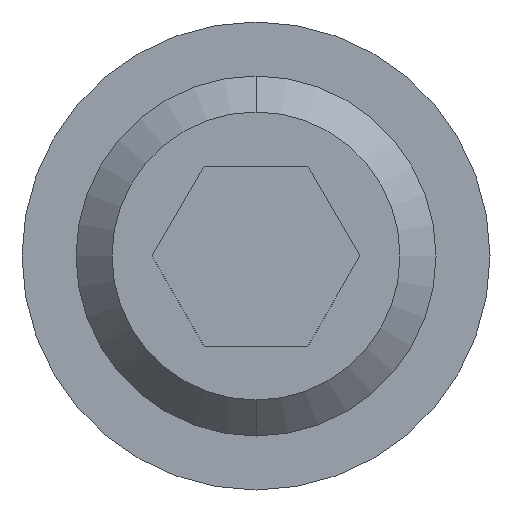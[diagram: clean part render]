
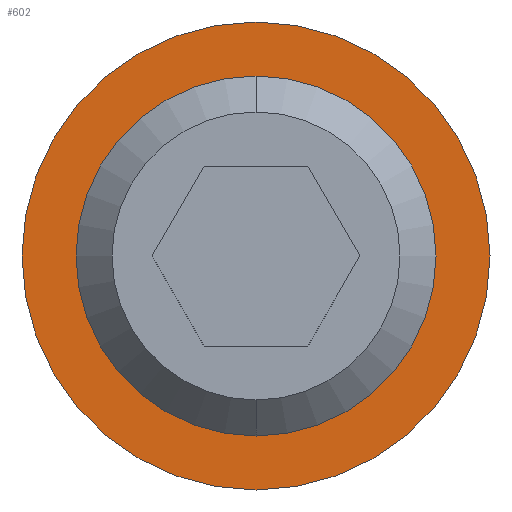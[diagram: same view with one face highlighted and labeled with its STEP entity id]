
A CAD part, front view. The second image highlights one B-rep face of the part: STEP entity #602.
In plain terms, the highlighted planar face has unit normal (0, -1, 0).
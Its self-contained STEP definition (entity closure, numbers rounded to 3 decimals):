
#16 = DIRECTION ( 'NONE',  ( 0., 0., 1. ) ) ;
#25 = AXIS2_PLACEMENT_3D ( 'NONE', #357, #726, #417 ) ;
#39 = DIRECTION ( 'NONE',  ( 0., 1., 0. ) ) ;
#42 = ORIENTED_EDGE ( 'NONE', *, *, #501, .F. ) ;
#59 = CIRCLE ( 'NONE', #586, 3.25 ) ;
#61 = DIRECTION ( 'NONE',  ( 0., 0., 1. ) ) ;
#64 = FACE_OUTER_BOUND ( 'NONE', #592, .T. ) ;
#86 = EDGE_LOOP ( 'NONE', ( #367, #289 ) ) ;
#96 = ORIENTED_EDGE ( 'NONE', *, *, #687, .F. ) ;
#97 = DIRECTION ( 'NONE',  ( 0., 1., 0. ) ) ;
#117 = CARTESIAN_POINT ( 'NONE',  ( 0., 5.5, 3.25 ) ) ;
#251 = VERTEX_POINT ( 'NONE', #751 ) ;
#270 = PLANE ( 'NONE',  #349 ) ;
#279 = DIRECTION ( 'NONE',  ( 0., 1., 0. ) ) ;
#289 = ORIENTED_EDGE ( 'NONE', *, *, #698, .T. ) ;
#291 = FACE_BOUND ( 'NONE', #86, .T. ) ;
#292 = CIRCLE ( 'NONE', #25, 3.25 ) ;
#296 = AXIS2_PLACEMENT_3D ( 'NONE', #505, #491, #61 ) ;
#301 = VERTEX_POINT ( 'NONE', #607 ) ;
#308 = EDGE_CURVE ( 'NONE', #301, #532, #766, .T. ) ;
#349 = AXIS2_PLACEMENT_3D ( 'NONE', #634, #39, #697 ) ;
#357 = CARTESIAN_POINT ( 'NONE',  ( 0., 5.5, 0. ) ) ;
#367 = ORIENTED_EDGE ( 'NONE', *, *, #308, .T. ) ;
#369 = DIRECTION ( 'NONE',  ( 0., 0., 1. ) ) ;
#417 = DIRECTION ( 'NONE',  ( 0., 0., 1. ) ) ;
#478 = CARTESIAN_POINT ( 'NONE',  ( 0., 5.5, 0. ) ) ;
#491 = DIRECTION ( 'NONE',  ( 0., 1., 0. ) ) ;
#501 = EDGE_CURVE ( 'NONE', #604, #251, #59, .T. ) ;
#505 = CARTESIAN_POINT ( 'NONE',  ( 0., 5.5, 0. ) ) ;
#532 = VERTEX_POINT ( 'NONE', #537 ) ;
#537 = CARTESIAN_POINT ( 'NONE',  ( 0., 5.5, 2.5 ) ) ;
#586 = AXIS2_PLACEMENT_3D ( 'NONE', #478, #97, #369 ) ;
#592 = EDGE_LOOP ( 'NONE', ( #96, #42 ) ) ;
#602 = ADVANCED_FACE ( 'NONE', ( #291, #64 ), #270, .F. ) ;
#604 = VERTEX_POINT ( 'NONE', #117 ) ;
#607 = CARTESIAN_POINT ( 'NONE',  ( 0., 5.5, -2.5 ) ) ;
#612 = AXIS2_PLACEMENT_3D ( 'NONE', #626, #279, #16 ) ;
#626 = CARTESIAN_POINT ( 'NONE',  ( 0., 5.5, 0. ) ) ;
#634 = CARTESIAN_POINT ( 'NONE',  ( 0., 5.5, 0. ) ) ;
#687 = EDGE_CURVE ( 'NONE', #251, #604, #292, .T. ) ;
#692 = CIRCLE ( 'NONE', #296, 2.5 ) ;
#697 = DIRECTION ( 'NONE',  ( 0., 0., 1. ) ) ;
#698 = EDGE_CURVE ( 'NONE', #532, #301, #692, .T. ) ;
#726 = DIRECTION ( 'NONE',  ( 0., 1., 0. ) ) ;
#751 = CARTESIAN_POINT ( 'NONE',  ( 0., 5.5, -3.25 ) ) ;
#766 = CIRCLE ( 'NONE', #612, 2.5 ) ;
